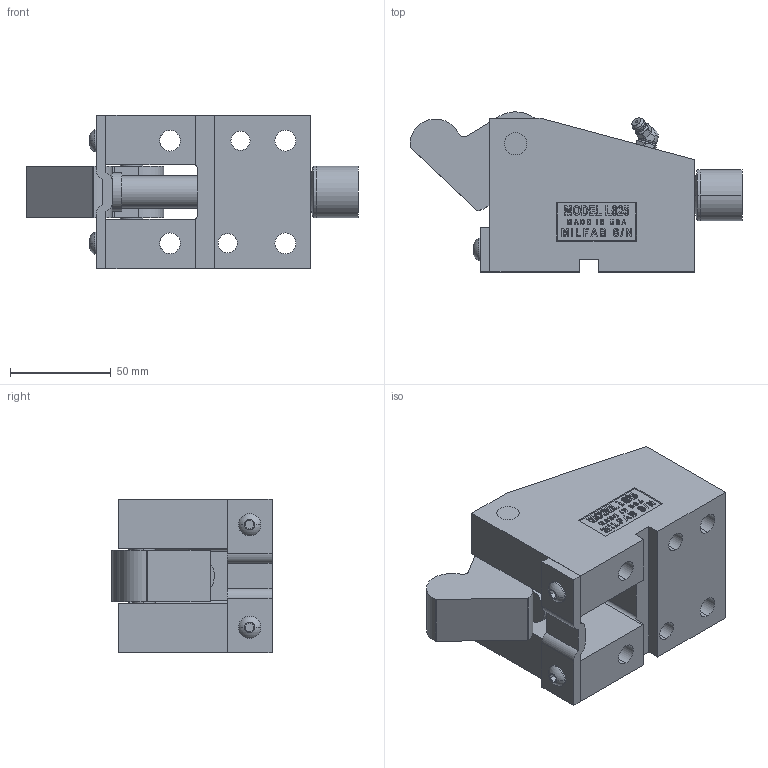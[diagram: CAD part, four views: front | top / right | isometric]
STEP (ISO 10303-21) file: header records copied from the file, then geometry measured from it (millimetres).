
FILE_DESCRIPTION (( 'STEP AP214' ), '1' );
FILE_NAME ('L62545-O.STEP', '2014-01-05T20:09:22', ( 'user' ), ( '' ), 'SwSTEP 2.0', 'SolidWorks 2009', '' );
FILE_SCHEMA (( 'AUTOMOTIVE_DESIGN' ));
Length unit declared in the file: inch
Products named in the file (11): L625-BODY; L625-PUNCH; I-625-POINT; 625 PIVOT PIN; 625-WASHER; 625-I-STRAP; GREASE ZERK; 1-4 SCREW; 625 STRIPPER OPEN; 625-OFFSET TRIGGER; L62545-O
Assembly tree (11 placements, depth 2):
  L62545-O
    1-4 SCREW  x2
    I-625-POINT
    L625-BODY
    625 STRIPPER OPEN
    L625-PUNCH
    625-WASHER
    625-I-STRAP
    625-OFFSET TRIGGER
    GREASE ZERK
    625 PIVOT PIN
Bounding box: 164.51 x 79.37 x 76.2 mm (x, y, z)
Volume: 466830.7 mm3; surface area: 91541.1 mm2
Topology: 11 solids, 11 shells, 586 faces, 1516 edges, 997 vertices
Faces by surface type: plane 337, cylinder 106, bspline 91, cone 28, torus 20, sphere 4
Entity records: 23101 total; most frequent: CARTESIAN_POINT 9283, ORIENTED_EDGE 2948, DIRECTION 2402, EDGE_CURVE 1474, VERTEX_POINT 971, LINE 956, VECTOR 956, AXIS2_PLACEMENT_3D 723
